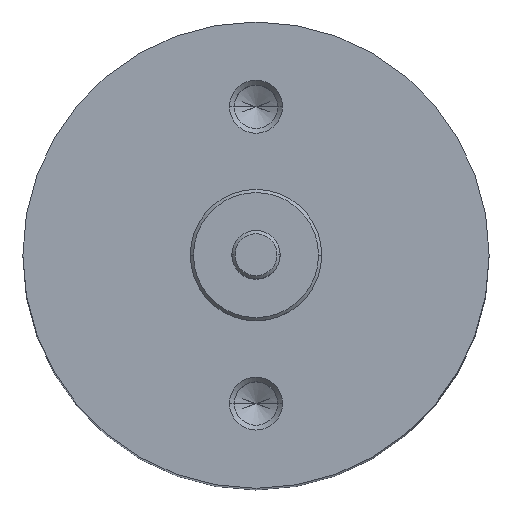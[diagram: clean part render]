
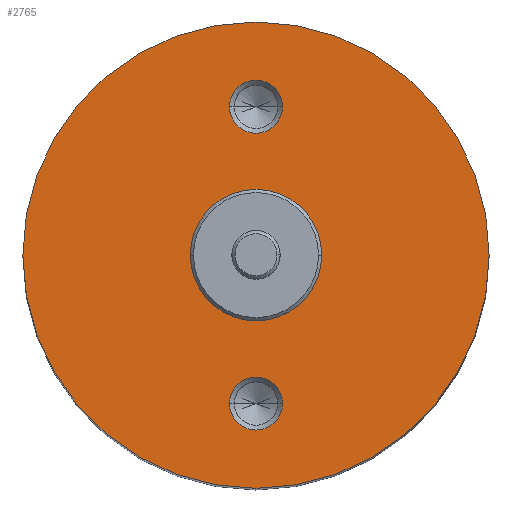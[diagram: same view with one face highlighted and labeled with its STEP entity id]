
A CAD part, top view. The second image highlights one B-rep face of the part: STEP entity #2765.
In plain terms, the highlighted planar face has unit normal (0, 0, 1).
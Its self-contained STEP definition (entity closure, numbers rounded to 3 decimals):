
#2276 = EDGE_CURVE ( 'NONE', #2447, #2415, #4038, .T. ) ;
#2387 = EDGE_CURVE ( 'NONE', #2463, #2405, #4380, .T. ) ;
#2405 = VERTEX_POINT ( 'NONE', #4470 ) ;
#2415 = VERTEX_POINT ( 'NONE', #4561 ) ;
#2447 = VERTEX_POINT ( 'NONE', #4577 ) ;
#2463 = VERTEX_POINT ( 'NONE', #4652 ) ;
#2545 = VERTEX_POINT ( 'NONE', #4977 ) ;
#2557 = VERTEX_POINT ( 'NONE', #4946 ) ;
#2666 = ORIENTED_EDGE ( 'NONE', *, *, #2276, .F. ) ;
#2668 = EDGE_LOOP ( 'NONE', ( #2766, #2769 ) ) ;
#2673 = EDGE_LOOP ( 'NONE', ( #2675, #2666 ) ) ;
#2675 = ORIENTED_EDGE ( 'NONE', *, *, #2768, .F. ) ;
#2682 = ORIENTED_EDGE ( 'NONE', *, *, #2762, .F. ) ;
#2742 = VERTEX_POINT ( 'NONE', #5456 ) ;
#2756 = EDGE_CURVE ( 'NONE', #2742, #2786, #5451, .T. ) ;
#2758 = ORIENTED_EDGE ( 'NONE', *, *, #2756, .F. ) ;
#2759 = ORIENTED_EDGE ( 'NONE', *, *, #2785, .F. ) ;
#2762 = EDGE_CURVE ( 'NONE', #2405, #2463, #5528, .T. ) ;
#2763 = EDGE_LOOP ( 'NONE', ( #2682, #2767 ) ) ;
#2764 = EDGE_CURVE ( 'NONE', #2557, #2545, #5520, .T. ) ;
#2765 = ADVANCED_FACE ( 'NONE', ( #5684, #5580, #5698, #5633 ), #5555, .T. ) ;
#2766 = ORIENTED_EDGE ( 'NONE', *, *, #2776, .T. ) ;
#2767 = ORIENTED_EDGE ( 'NONE', *, *, #2387, .F. ) ;
#2768 = EDGE_CURVE ( 'NONE', #2415, #2447, #5636, .T. ) ;
#2769 = ORIENTED_EDGE ( 'NONE', *, *, #2764, .T. ) ;
#2770 = EDGE_LOOP ( 'NONE', ( #2758, #2759 ) ) ;
#2776 = EDGE_CURVE ( 'NONE', #2545, #2557, #5649, .T. ) ;
#2785 = EDGE_CURVE ( 'NONE', #2786, #2742, #5655, .T. ) ;
#2786 = VERTEX_POINT ( 'NONE', #5671 ) ;
#4038 = CIRCLE ( 'NONE', #4139, 1.25 ) ;
#4116 = DIRECTION ( 'NONE',  ( 1., 0., 0. ) ) ;
#4117 = DIRECTION ( 'NONE',  ( 0., 0., 1. ) ) ;
#4139 = AXIS2_PLACEMENT_3D ( 'NONE', #4142, #4117, #4116 ) ;
#4142 = CARTESIAN_POINT ( 'NONE',  ( 0., -7., 0. ) ) ;
#4380 = CIRCLE ( 'NONE', #4458, 1.25 ) ;
#4455 = DIRECTION ( 'NONE',  ( 1., 0., 0. ) ) ;
#4456 = DIRECTION ( 'NONE',  ( 0., 0., 1. ) ) ;
#4457 = CARTESIAN_POINT ( 'NONE',  ( 0., 7., 0. ) ) ;
#4458 = AXIS2_PLACEMENT_3D ( 'NONE', #4457, #4456, #4455 ) ;
#4470 = CARTESIAN_POINT ( 'NONE',  ( 1.25, 7., 0. ) ) ;
#4561 = CARTESIAN_POINT ( 'NONE',  ( 1.25, -7., 0. ) ) ;
#4577 = CARTESIAN_POINT ( 'NONE',  ( -1.25, -7., 0. ) ) ;
#4652 = CARTESIAN_POINT ( 'NONE',  ( -1.25, 7., 0. ) ) ;
#4946 = CARTESIAN_POINT ( 'NONE',  ( -11., 0., 0. ) ) ;
#4977 = CARTESIAN_POINT ( 'NONE',  ( 11., 0., 0. ) ) ;
#5422 = DIRECTION ( 'NONE',  ( 1., 0., 0. ) ) ;
#5423 = DIRECTION ( 'NONE',  ( 0., 0., 1. ) ) ;
#5424 = AXIS2_PLACEMENT_3D ( 'NONE', #5536, #5423, #5422 ) ;
#5451 = CIRCLE ( 'NONE', #5490, 3.1 ) ;
#5456 = CARTESIAN_POINT ( 'NONE',  ( -3.1, 0., 0. ) ) ;
#5467 = DIRECTION ( 'NONE',  ( 1., 0., 0. ) ) ;
#5468 = DIRECTION ( 'NONE',  ( 0., 0., 1. ) ) ;
#5487 = AXIS2_PLACEMENT_3D ( 'NONE', #5498, #5497, #5489 ) ;
#5489 = DIRECTION ( 'NONE',  ( 1., 0., 0. ) ) ;
#5490 = AXIS2_PLACEMENT_3D ( 'NONE', #5525, #5468, #5467 ) ;
#5497 = DIRECTION ( 'NONE',  ( 0., 0., 1. ) ) ;
#5498 = CARTESIAN_POINT ( 'NONE',  ( 0., 7., 0. ) ) ;
#5520 = CIRCLE ( 'NONE', #5424, 11. ) ;
#5525 = CARTESIAN_POINT ( 'NONE',  ( 0., 0., 0. ) ) ;
#5528 = CIRCLE ( 'NONE', #5487, 1.25 ) ;
#5536 = CARTESIAN_POINT ( 'NONE',  ( 0., 0., 0. ) ) ;
#5555 = PLANE ( 'NONE',  #5598 ) ;
#5569 = CARTESIAN_POINT ( 'NONE',  ( 0., 0., 0. ) ) ;
#5580 = FACE_BOUND ( 'NONE', #2673, .T. ) ;
#5592 = CARTESIAN_POINT ( 'NONE',  ( 0., 0., 0. ) ) ;
#5598 = AXIS2_PLACEMENT_3D ( 'NONE', #5569, #5620, #5619 ) ;
#5607 = CARTESIAN_POINT ( 'NONE',  ( 0., 0., 0. ) ) ;
#5608 = AXIS2_PLACEMENT_3D ( 'NONE', #5607, #5666, #5665 ) ;
#5619 = DIRECTION ( 'NONE',  ( 1., 0., 0. ) ) ;
#5620 = DIRECTION ( 'NONE',  ( 0., 0., 1. ) ) ;
#5633 = FACE_BOUND ( 'NONE', #2770, .T. ) ;
#5635 = AXIS2_PLACEMENT_3D ( 'NONE', #5669, #5668, #5667 ) ;
#5636 = CIRCLE ( 'NONE', #5635, 1.25 ) ;
#5642 = AXIS2_PLACEMENT_3D ( 'NONE', #5592, #5662, #5661 ) ;
#5649 = CIRCLE ( 'NONE', #5642, 11. ) ;
#5655 = CIRCLE ( 'NONE', #5608, 3.1 ) ;
#5661 = DIRECTION ( 'NONE',  ( 1., 0., 0. ) ) ;
#5662 = DIRECTION ( 'NONE',  ( 0., 0., 1. ) ) ;
#5665 = DIRECTION ( 'NONE',  ( 1., 0., 0. ) ) ;
#5666 = DIRECTION ( 'NONE',  ( 0., 0., 1. ) ) ;
#5667 = DIRECTION ( 'NONE',  ( 1., 0., 0. ) ) ;
#5668 = DIRECTION ( 'NONE',  ( 0., 0., 1. ) ) ;
#5669 = CARTESIAN_POINT ( 'NONE',  ( 0., -7., 0. ) ) ;
#5671 = CARTESIAN_POINT ( 'NONE',  ( 3.1, 0., 0. ) ) ;
#5684 = FACE_BOUND ( 'NONE', #2763, .T. ) ;
#5698 = FACE_OUTER_BOUND ( 'NONE', #2668, .T. ) ;
